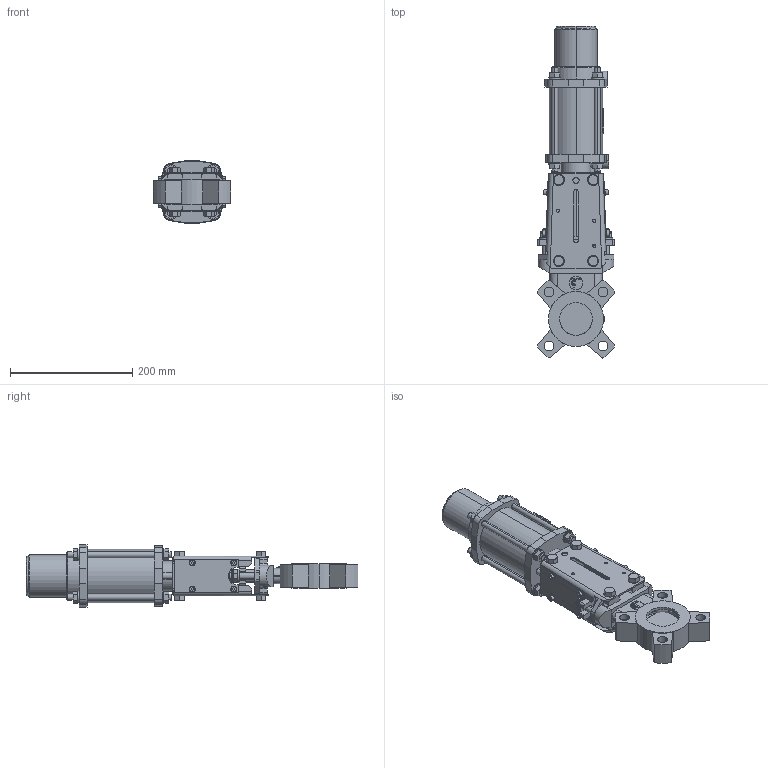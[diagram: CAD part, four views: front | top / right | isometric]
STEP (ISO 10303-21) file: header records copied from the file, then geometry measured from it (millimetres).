
FILE_DESCRIPTION (( 'STEP AP203' ), '1' );
FILE_NAME ('VG P N DN50.STEP', '2010-03-31T03:04:55', ( 'farex' ), ( '' ), 'SwSTEP 2.0', 'SolidWorks 2009', '' );
FILE_SCHEMA (( 'CONFIG_CONTROL_DESIGN' ));
Length unit declared in the file: millimetre
Products named in the file (1): VG P N DN50
Bounding box: 127.6 x 543.8 x 102 mm (x, y, z)
Volume: 1333972.2 mm3; surface area: 387327 mm2
Topology: 4 solids, 22 shells, 1038 faces, 2595 edges, 1699 vertices
Faces by surface type: plane 554, cylinder 354, cone 91, bspline 33, torus 6
Entity records: 37068 total; most frequent: CARTESIAN_POINT 12013, ORIENTED_EDGE 5190, DIRECTION 5107, EDGE_CURVE 2595, AXIS2_PLACEMENT_3D 1811, VERTEX_POINT 1699, VECTOR 1485, LINE 1485
